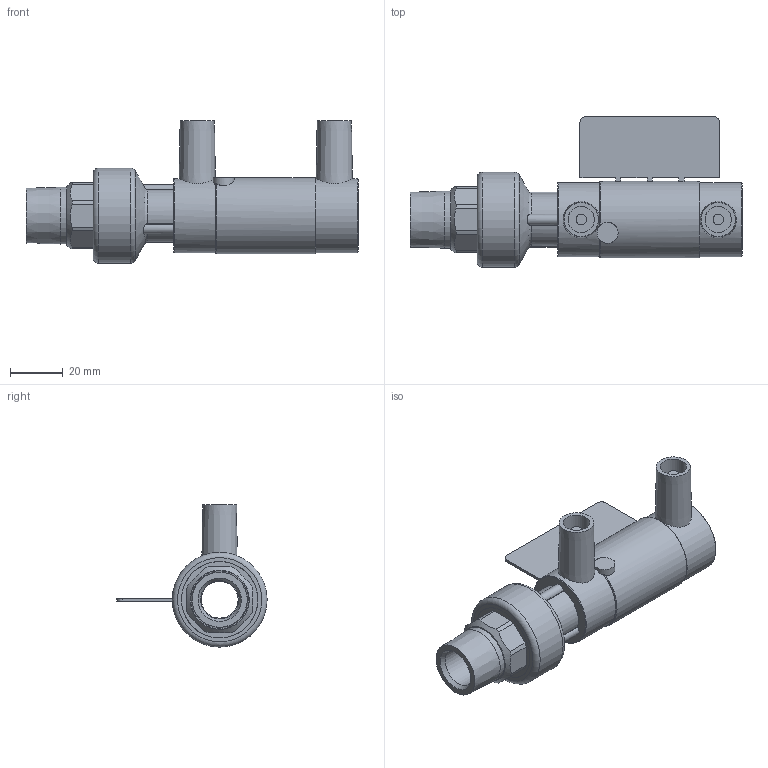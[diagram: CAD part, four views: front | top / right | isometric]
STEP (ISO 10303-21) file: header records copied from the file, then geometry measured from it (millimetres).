
FILE_DESCRIPTION(/* description */ ('Unknown'),/* implementation_level */ '2;1');
FILE_NAME(/* name */ 'MTMP020C.P',/* time_stamp */ '2021-11-10T15:46:34+01:00',/* author */ ('Unknown'),/* organization */ ('Unknown'),/* preprocessor_version */ 'ST-DEVELOPER v16.7',/* originating_system */ 'Solid Edge',/* authorisation */ 'Unknown');
FILE_SCHEMA (('AUTOMOTIVE_DESIGN {1 0 10303 214 3 1 1}'));
Length unit declared in the file: millimetre
Products named in the file (5): MTMP020C.P; MP020C.P; RTOMP020C; Parte PE 020; IOM020C
Assembly tree (4 placements, depth 3):
  MTMP020C.P
    MP020C.P
    RTOMP020C
      Parte PE 020
      IOM020C
Bounding box: 126 x 57 x 54 mm (x, y, z)
Volume: 57169.5 mm3; surface area: 34771.8 mm2
Topology: 3 solids, 3 shells, 225 faces, 558 edges, 362 vertices
Faces by surface type: plane 133, cylinder 55, torus 16, bspline 15, cone 6
Full cylindrical faces by diameter (mm): 4 x2, 8 x1, 10 x2, 14 x1, 14.5 x1, 18.5 x2, 20 x2, 21.5 x2, 21.7 x1, 25 x4, 26.4 x2, 28 x2, 29 x9, 36 x1
Entity records: 7217 total; most frequent: CARTESIAN_POINT 1467, DIRECTION 1095, ORIENTED_EDGE 990, EDGE_CURVE 495, AXIS2_PLACEMENT_3D 430, VERTEX_POINT 345, EDGE_LOOP 304, FACE_BOUND 304
